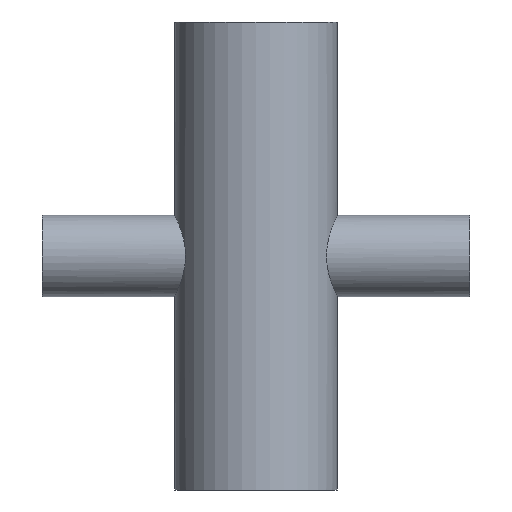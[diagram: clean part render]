
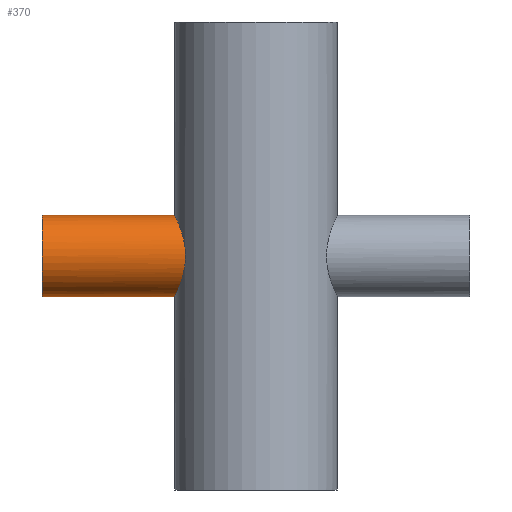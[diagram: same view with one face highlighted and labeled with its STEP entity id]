
A CAD part, front view. The second image highlights one B-rep face of the part: STEP entity #370.
In plain terms, the highlighted cylindrical face has radius 12.7 mm (diameter 25.4 mm), a partial arc.
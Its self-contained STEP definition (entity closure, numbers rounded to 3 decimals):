
#6 = VERTEX_POINT ( 'NONE', #835 ) ;
#22 = ORIENTED_EDGE ( 'NONE', *, *, #528, .F. ) ;
#49 = CARTESIAN_POINT ( 'NONE',  ( -22.092, -12.534, -2.089 ) ) ;
#71 = CARTESIAN_POINT ( 'NONE',  ( -25.4, 0., 12.7 ) ) ;
#94 = VERTEX_POINT ( 'NONE', #487 ) ;
#117 = CARTESIAN_POINT ( 'NONE',  ( -23.974, -8.398, 9.536 ) ) ;
#124 = CARTESIAN_POINT ( 'NONE',  ( -23.866, -8.699, 9.262 ) ) ;
#134 = CARTESIAN_POINT ( 'NONE',  ( -22.057, -12.597, -1.673 ) ) ;
#145 = CIRCLE ( 'NONE', #716, 12.7 ) ;
#150 = CARTESIAN_POINT ( 'NONE',  ( -66.675, 0., 0. ) ) ;
#154 = DIRECTION ( 'NONE',  ( 1., 0., 0. ) ) ;
#158 = CARTESIAN_POINT ( 'NONE',  ( -25.064, -4.136, 12.015 ) ) ;
#172 = ORIENTED_EDGE ( 'NONE', *, *, #245, .F. ) ;
#186 = LINE ( 'NONE', #332, #801 ) ;
#221 = DIRECTION ( 'NONE',  ( 0., 0., -1. ) ) ;
#222 = CARTESIAN_POINT ( 'NONE',  ( -24.186, -7.766, 10.057 ) ) ;
#227 = EDGE_LOOP ( 'NONE', ( #22, #356, #525, #172 ) ) ;
#238 = FACE_OUTER_BOUND ( 'NONE', #227, .T. ) ;
#245 = EDGE_CURVE ( 'NONE', #6, #94, #282, .T. ) ;
#247 = CYLINDRICAL_SURFACE ( 'NONE', #408, 12.7 ) ;
#261 = DIRECTION ( 'NONE',  ( 1., 0., 0. ) ) ;
#282 = B_SPLINE_CURVE_WITH_KNOTS ( 'NONE', 3,
 ( #71, #432, #504, #576, #512, #158, #582, #926, #425, #317, #222, #117, #124, #573, #577, #568, #860, #741, #735, #719, #711, #688, #473, #546, #557, #384, #421, #134, #49, #550, #532, #334, #534, #619, #605, #353, #358, #350, #346, #506, #494, #502, #457, #478, #427, #455, #417, #406, #411, #387, #398, #404 ),
 .UNSPECIFIED., .F., .F.,
 ( 4, 2, 2, 2, 2, 2, 2, 2, 2, 2, 2, 2, 2, 2, 2, 2, 2, 2, 2, 2, 2, 2, 2, 2, 2, 4 ),
 ( 0., 0.003, 0.004, 0.005, 0.008, 0.009, 0.01, 0.011, 0.013, 0.015, 0.016, 0.018, 0.02, 0.021, 0.023, 0.024, 0.025, 0.028, 0.029, 0.03, 0.033, 0.034, 0.035, 0.037, 0.038, 0.04 ),
 .UNSPECIFIED. ) ;
#308 = VECTOR ( 'NONE', #834, 1000. ) ;
#316 = CARTESIAN_POINT ( 'NONE',  ( -66.675, 0., 12.7 ) ) ;
#317 = CARTESIAN_POINT ( 'NONE',  ( -24.29, -7.434, 10.305 ) ) ;
#329 = DIRECTION ( 'NONE',  ( 0., 0., -1. ) ) ;
#332 = CARTESIAN_POINT ( 'NONE',  ( -66.675, 0., 12.7 ) ) ;
#334 = CARTESIAN_POINT ( 'NONE',  ( -22.375, -12.022, -4.115 ) ) ;
#346 = CARTESIAN_POINT ( 'NONE',  ( -23.646, -9.279, -8.681 ) ) ;
#350 = CARTESIAN_POINT ( 'NONE',  ( -23.537, -9.553, -8.378 ) ) ;
#353 = CARTESIAN_POINT ( 'NONE',  ( -23.21, -10.321, -7.411 ) ) ;
#356 = ORIENTED_EDGE ( 'NONE', *, *, #632, .T. ) ;
#358 = CARTESIAN_POINT ( 'NONE',  ( -23.318, -10.075, -7.743 ) ) ;
#370 = ADVANCED_FACE ( 'NONE', ( #238 ), #247, .T. ) ;
#378 = VERTEX_POINT ( 'NONE', #316 ) ;
#384 = CARTESIAN_POINT ( 'NONE',  ( -21.997, -12.701, -0.4 ) ) ;
#387 = CARTESIAN_POINT ( 'NONE',  ( -25.357, -1.698, -12.615 ) ) ;
#398 = CARTESIAN_POINT ( 'NONE',  ( -25.4, -0.855, -12.7 ) ) ;
#404 = CARTESIAN_POINT ( 'NONE',  ( -25.4, 0., -12.7 ) ) ;
#406 = CARTESIAN_POINT ( 'NONE',  ( -25.181, -3.356, -12.256 ) ) ;
#408 = AXIS2_PLACEMENT_3D ( 'NONE', #671, #154, #329 ) ;
#411 = CARTESIAN_POINT ( 'NONE',  ( -25.232, -2.944, -12.361 ) ) ;
#417 = CARTESIAN_POINT ( 'NONE',  ( -25.061, -4.155, -12.009 ) ) ;
#421 = CARTESIAN_POINT ( 'NONE',  ( -22.009, -12.68, -0.828 ) ) ;
#425 = CARTESIAN_POINT ( 'NONE',  ( -24.589, -6.406, 10.997 ) ) ;
#427 = CARTESIAN_POINT ( 'NONE',  ( -24.843, -5.306, -11.546 ) ) ;
#432 = CARTESIAN_POINT ( 'NONE',  ( -25.4, -0.854, 12.7 ) ) ;
#455 = CARTESIAN_POINT ( 'NONE',  ( -24.993, -4.544, -11.866 ) ) ;
#457 = CARTESIAN_POINT ( 'NONE',  ( -24.583, -6.403, -10.976 ) ) ;
#473 = CARTESIAN_POINT ( 'NONE',  ( -22.188, -12.364, 2.934 ) ) ;
#478 = CARTESIAN_POINT ( 'NONE',  ( -24.76, -5.678, -11.368 ) ) ;
#487 = CARTESIAN_POINT ( 'NONE',  ( -25.4, 0., -12.7 ) ) ;
#494 = CARTESIAN_POINT ( 'NONE',  ( -24.187, -7.788, -10.066 ) ) ;
#502 = CARTESIAN_POINT ( 'NONE',  ( -24.487, -6.758, -10.761 ) ) ;
#504 = CARTESIAN_POINT ( 'NONE',  ( -25.357, -1.692, 12.615 ) ) ;
#506 = CARTESIAN_POINT ( 'NONE',  ( -23.973, -8.416, -9.545 ) ) ;
#512 = CARTESIAN_POINT ( 'NONE',  ( -25.184, -3.331, 12.263 ) ) ;
#525 = ORIENTED_EDGE ( 'NONE', *, *, #634, .T. ) ;
#528 = EDGE_CURVE ( 'NONE', #378, #6, #186, .T. ) ;
#532 = CARTESIAN_POINT ( 'NONE',  ( -22.242, -12.267, -3.316 ) ) ;
#534 = CARTESIAN_POINT ( 'NONE',  ( -22.452, -11.879, -4.512 ) ) ;
#546 = CARTESIAN_POINT ( 'NONE',  ( -22.048, -12.614, 1.7 ) ) ;
#550 = CARTESIAN_POINT ( 'NONE',  ( -22.185, -12.369, -2.911 ) ) ;
#557 = CARTESIAN_POINT ( 'NONE',  ( -21.998, -12.698, 0.867 ) ) ;
#568 = CARTESIAN_POINT ( 'NONE',  ( -23.321, -10.068, 7.752 ) ) ;
#573 = CARTESIAN_POINT ( 'NONE',  ( -23.648, -9.274, 8.686 ) ) ;
#575 = CARTESIAN_POINT ( 'NONE',  ( -66.675, 0., -12.7 ) ) ;
#576 = CARTESIAN_POINT ( 'NONE',  ( -25.235, -2.924, 12.366 ) ) ;
#577 = CARTESIAN_POINT ( 'NONE',  ( -23.539, -9.548, 8.384 ) ) ;
#582 = CARTESIAN_POINT ( 'NONE',  ( -24.995, -4.532, 11.871 ) ) ;
#605 = CARTESIAN_POINT ( 'NONE',  ( -22.897, -11.007, -6.388 ) ) ;
#619 = CARTESIAN_POINT ( 'NONE',  ( -22.702, -11.397, -5.665 ) ) ;
#632 = EDGE_CURVE ( 'NONE', #378, #873, #145, .T. ) ;
#634 = EDGE_CURVE ( 'NONE', #873, #94, #677, .T. ) ;
#648 = DIRECTION ( 'NONE',  ( 1., 0., 0. ) ) ;
#671 = CARTESIAN_POINT ( 'NONE',  ( -66.675, 0., 0. ) ) ;
#677 = LINE ( 'NONE', #575, #308 ) ;
#688 = CARTESIAN_POINT ( 'NONE',  ( -22.246, -12.259, 3.344 ) ) ;
#711 = CARTESIAN_POINT ( 'NONE',  ( -22.381, -12.011, 4.146 ) ) ;
#716 = AXIS2_PLACEMENT_3D ( 'NONE', #150, #648, #221 ) ;
#719 = CARTESIAN_POINT ( 'NONE',  ( -22.457, -11.869, 4.536 ) ) ;
#735 = CARTESIAN_POINT ( 'NONE',  ( -22.706, -11.391, 5.676 ) ) ;
#741 = CARTESIAN_POINT ( 'NONE',  ( -22.899, -11.002, 6.397 ) ) ;
#760 = CARTESIAN_POINT ( 'NONE',  ( -66.675, 0., -12.7 ) ) ;
#801 = VECTOR ( 'NONE', #261, 1000. ) ;
#834 = DIRECTION ( 'NONE',  ( 1., 0., 0. ) ) ;
#835 = CARTESIAN_POINT ( 'NONE',  ( -25.4, 0., 12.7 ) ) ;
#860 = CARTESIAN_POINT ( 'NONE',  ( -23.213, -10.315, 7.421 ) ) ;
#873 = VERTEX_POINT ( 'NONE', #760 ) ;
#926 = CARTESIAN_POINT ( 'NONE',  ( -24.769, -5.682, 11.388 ) ) ;
